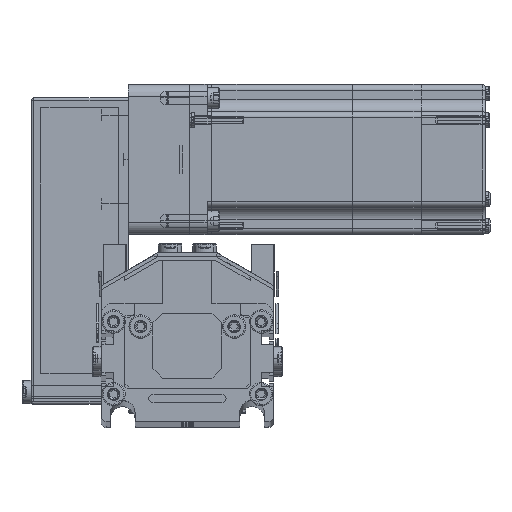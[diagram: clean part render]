
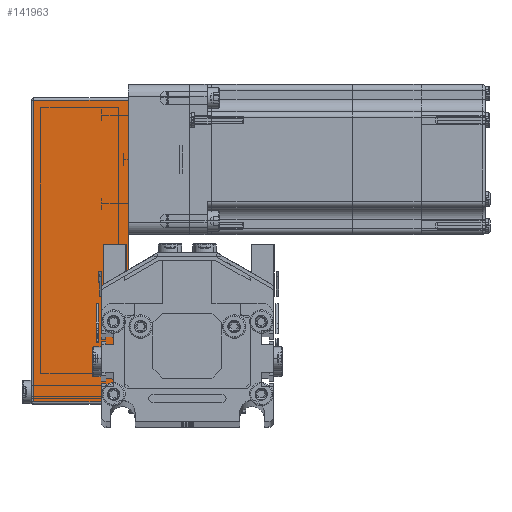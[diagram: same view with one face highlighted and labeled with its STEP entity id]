
A CAD part, top view. The second image highlights one B-rep face of the part: STEP entity #141963.
In plain terms, the highlighted planar face has unit normal (0, 0, 1) as drawn and (0, -1, 0) by its records, which use the part's own axes.
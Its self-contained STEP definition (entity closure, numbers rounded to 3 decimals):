
#64374 = CARTESIAN_POINT ( 'NONE',  ( -50., -25., 0. ) ) ;
#64375 = LINE ( 'NONE', #64374, #64885 ) ;
#64849 = DIRECTION ( 'NONE',  ( 1., 0., 0. ) ) ;
#64885 = VECTOR ( 'NONE', #64849, 1000. ) ;
#65461 = CARTESIAN_POINT ( 'NONE',  ( -49., -25., 0. ) ) ;
#65480 = CARTESIAN_POINT ( 'NONE',  ( 73.5, -25., 0. ) ) ;
#65696 = DIRECTION ( 'NONE',  ( 0., 0., -1. ) ) ;
#65697 = VECTOR ( 'NONE', #65696, 1000. ) ;
#65698 = CARTESIAN_POINT ( 'NONE',  ( -49., -25., 39.5 ) ) ;
#65699 = LINE ( 'NONE', #65698, #65697 ) ;
#65769 = PLANE ( 'NONE',  #65889 ) ;
#65883 = DIRECTION ( 'NONE',  ( 0., 0., 1. ) ) ;
#65885 = DIRECTION ( 'NONE',  ( 0., 1., 0. ) ) ;
#65887 = CARTESIAN_POINT ( 'NONE',  ( -50., -25., 39.5 ) ) ;
#65889 = AXIS2_PLACEMENT_3D ( 'NONE', #65887, #65885, #65883 ) ;
#65901 = FACE_OUTER_BOUND ( 'NONE', #141989, .T. ) ;
#65993 = DIRECTION ( 'NONE',  ( -1., 0., 0. ) ) ;
#65995 = VECTOR ( 'NONE', #65993, 1000. ) ;
#65998 = CARTESIAN_POINT ( 'NONE',  ( -50., -25., 38.5 ) ) ;
#66002 = LINE ( 'NONE', #65998, #65995 ) ;
#66452 = DIRECTION ( 'NONE',  ( 0., 0., 1. ) ) ;
#66453 = VECTOR ( 'NONE', #66452, 1000. ) ;
#66454 = CARTESIAN_POINT ( 'NONE',  ( 73.5, -25., 39.5 ) ) ;
#66456 = LINE ( 'NONE', #66454, #66453 ) ;
#132849 = CARTESIAN_POINT ( 'NONE',  ( -49., -25., 38.5 ) ) ;
#132852 = CARTESIAN_POINT ( 'NONE',  ( 73.5, -25., 38.5 ) ) ;
#141030 = EDGE_CURVE ( 'NONE', #141409, #141407, #64375, .T. ) ;
#141116 = VERTEX_POINT ( 'NONE', #132852 ) ;
#141121 = VERTEX_POINT ( 'NONE', #132849 ) ;
#141144 = ORIENTED_EDGE ( 'NONE', *, *, #141905, .T. ) ;
#141407 = VERTEX_POINT ( 'NONE', #65480 ) ;
#141409 = VERTEX_POINT ( 'NONE', #65461 ) ;
#141869 = ORIENTED_EDGE ( 'NONE', *, *, #142065, .T. ) ;
#141902 = ORIENTED_EDGE ( 'NONE', *, *, #142150, .T. ) ;
#141905 = EDGE_CURVE ( 'NONE', #141121, #141409, #65699, .T. ) ;
#141963 = ADVANCED_FACE ( 'NONE', ( #65901 ), #65769, .F. ) ;
#141989 = EDGE_LOOP ( 'NONE', ( #141869, #141144, #142154, #141902 ) ) ;
#142065 = EDGE_CURVE ( 'NONE', #141116, #141121, #66002, .T. ) ;
#142150 = EDGE_CURVE ( 'NONE', #141407, #141116, #66456, .T. ) ;
#142154 = ORIENTED_EDGE ( 'NONE', *, *, #141030, .T. ) ;
